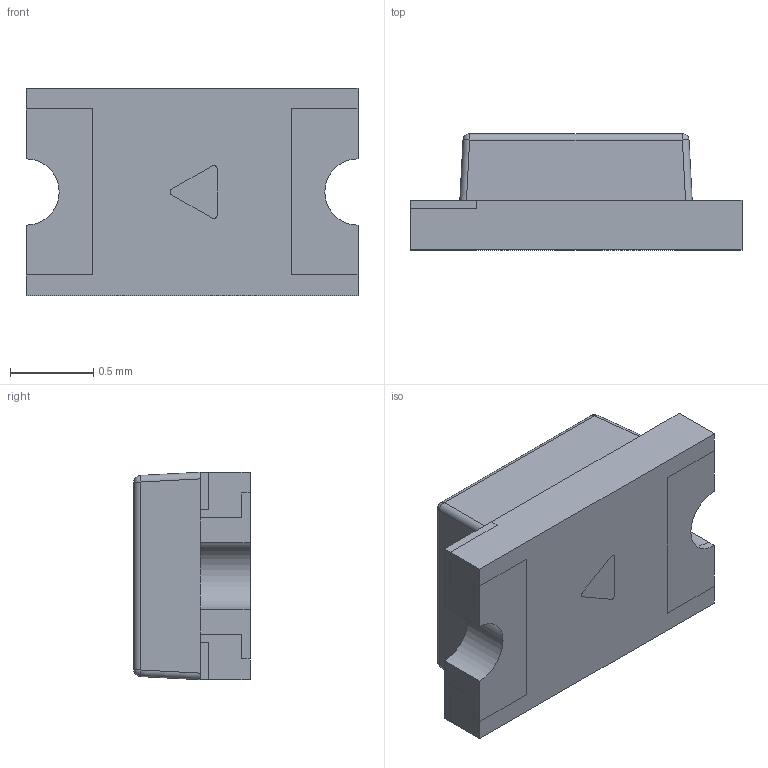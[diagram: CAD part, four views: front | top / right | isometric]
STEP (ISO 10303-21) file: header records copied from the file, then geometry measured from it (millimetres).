
FILE_DESCRIPTION (( 'STEP AP214' ), '1' );
FILE_NAME ('150080RS75000.STEP', '2021-06-14T06:30:44', ( '' ), ( '' ), 'SwSTEP 2.0', 'SolidWorks 2018', '' );
FILE_SCHEMA (( 'AUTOMOTIVE_DESIGN' ));
Length unit declared in the file: millimetre
Products named in the file (1): 150080RS75000
Bounding box: 2 x 0.7 x 1.25 mm (x, y, z)
Volume: 1.4 mm3; surface area: 12 mm2
Topology: 7 solids, 7 shells, 110 faces, 267 edges, 168 vertices
Faces by surface type: plane 80, cylinder 26, sphere 4
Entity records: 3748 total; most frequent: CARTESIAN_POINT 554, DIRECTION 533, ORIENTED_EDGE 526, EDGE_CURVE 263, VECTOR 207, LINE 207, VERTEX_POINT 168, AXIS2_PLACEMENT_3D 163
